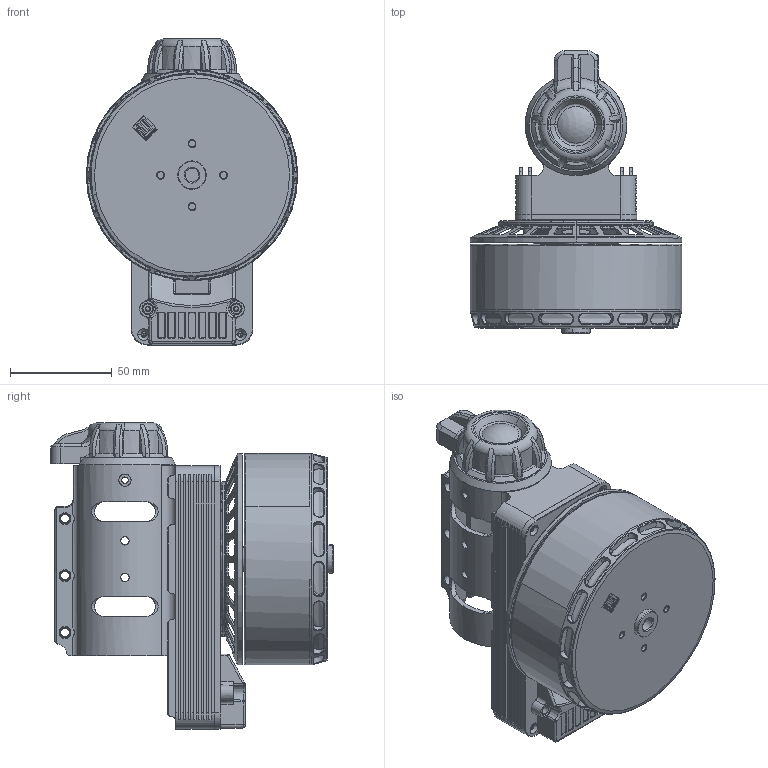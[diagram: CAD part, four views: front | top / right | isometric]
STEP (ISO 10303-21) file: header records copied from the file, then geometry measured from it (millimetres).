
FILE_DESCRIPTION((''),'2;1');
FILE_NAME('1550245A1-45______-M5','2020-08-10T',('owner'),(''),'PRO/ENGINEER BY PARAMETRIC TECHNOLOGY CORPORATION, 2014320','PRO/ENGINEER BY PARAMETRIC TECHNOLOGY CORPORATION, 2014320','');
FILE_SCHEMA(('CONFIG_CONTROL_DESIGN','SHAPE_APPEARANCE_LAYERS_GROUPS'));
Length unit declared in the file: millimetre
Products named in the file (1): 1550245A1-45______-M5
Bounding box: 104 x 139 x 150.6 mm (x, y, z)
Volume: 330063.5 mm3; surface area: 156207.9 mm2
Topology: 2 solids, 64 shells, 2932 faces, 8351 edges, 5385 vertices
Faces by surface type: plane 1224, cylinder 1200, cone 270, bspline 139, torus 80, revolution 8, sphere 7, extrusion 4
Entity records: 128913 total; most frequent: CARTESIAN_POINT 54362, ORIENTED_EDGE 16674, DIRECTION 14260, EDGE_CURVE 8337, VERTEX_POINT 5385, AXIS2_PLACEMENT_3D 5094, VECTOR 4064, LINE 4060
